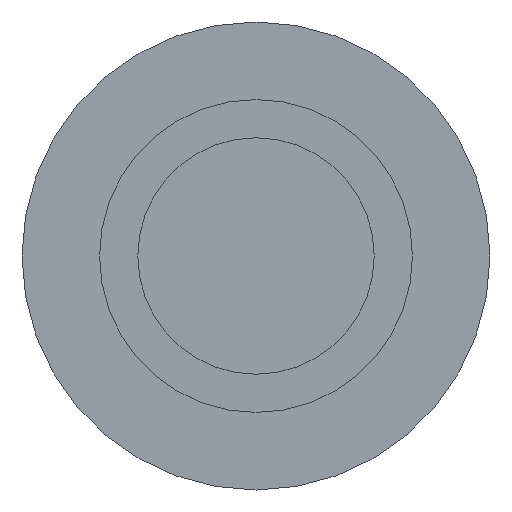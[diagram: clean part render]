
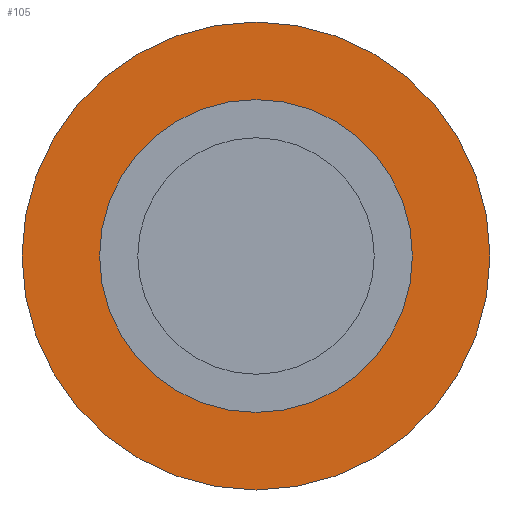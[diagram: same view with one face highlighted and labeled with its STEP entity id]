
A CAD part, front view. The second image highlights one B-rep face of the part: STEP entity #105.
In plain terms, the highlighted planar face has unit normal (0, -1, 0).
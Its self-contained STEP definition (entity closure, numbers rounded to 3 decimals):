
#22 = VERTEX_POINT('',#23);
#23 = CARTESIAN_POINT('',(65.35,107.9,-170.));
#32 = CYLINDRICAL_SURFACE('',#33,4.75);
#33 = AXIS2_PLACEMENT_3D('',#34,#35,#36);
#34 = CARTESIAN_POINT('',(60.6,107.9,-170.));
#35 = DIRECTION('',(0.,-1.,-0.));
#36 = DIRECTION('',(1.,0.,0.));
#79 = EDGE_CURVE('',#22,#22,#80,.T.);
#80 = SURFACE_CURVE('',#81,(#86,#93),.PCURVE_S1.);
#81 = CIRCLE('',#82,4.75);
#82 = AXIS2_PLACEMENT_3D('',#83,#84,#85);
#83 = CARTESIAN_POINT('',(60.6,107.9,-170.));
#84 = DIRECTION('',(-0.,1.,0.));
#85 = DIRECTION('',(1.,0.,0.));
#86 = PCURVE('',#32,#87);
#87 = DEFINITIONAL_REPRESENTATION('',(#88),#92);
#88 = LINE('',#89,#90);
#89 = CARTESIAN_POINT('',(-0.,0.));
#90 = VECTOR('',#91,1.);
#91 = DIRECTION('',(-1.,0.));
#92 = ( GEOMETRIC_REPRESENTATION_CONTEXT(2) 
PARAMETRIC_REPRESENTATION_CONTEXT() REPRESENTATION_CONTEXT('2D SPACE',''
  ) );
#93 = PCURVE('',#94,#99);
#94 = PLANE('',#95);
#95 = AXIS2_PLACEMENT_3D('',#96,#97,#98);
#96 = CARTESIAN_POINT('',(60.6,107.9,-170.));
#97 = DIRECTION('',(0.,1.,0.));
#98 = DIRECTION('',(0.,-0.,1.));
#99 = DEFINITIONAL_REPRESENTATION('',(#100),#104);
#100 = CIRCLE('',#101,4.75);
#101 = AXIS2_PLACEMENT_2D('',#102,#103);
#102 = CARTESIAN_POINT('',(0.,0.));
#103 = DIRECTION('',(0.,1.));
#104 = ( GEOMETRIC_REPRESENTATION_CONTEXT(2) 
PARAMETRIC_REPRESENTATION_CONTEXT() REPRESENTATION_CONTEXT('2D SPACE',''
  ) );
#105 = ADVANCED_FACE('',(#106,#109),#94,.F.);
#106 = FACE_BOUND('',#107,.F.);
#107 = EDGE_LOOP('',(#108));
#108 = ORIENTED_EDGE('',*,*,#79,.T.);
#109 = FACE_BOUND('',#110,.F.);
#110 = EDGE_LOOP('',(#111));
#111 = ORIENTED_EDGE('',*,*,#112,.F.);
#112 = EDGE_CURVE('',#113,#113,#115,.T.);
#113 = VERTEX_POINT('',#114);
#114 = CARTESIAN_POINT('',(63.775,107.9,-170.));
#115 = SURFACE_CURVE('',#116,(#121,#128),.PCURVE_S1.);
#116 = CIRCLE('',#117,3.175);
#117 = AXIS2_PLACEMENT_3D('',#118,#119,#120);
#118 = CARTESIAN_POINT('',(60.6,107.9,-170.));
#119 = DIRECTION('',(-0.,1.,0.));
#120 = DIRECTION('',(1.,0.,0.));
#121 = PCURVE('',#94,#122);
#122 = DEFINITIONAL_REPRESENTATION('',(#123),#127);
#123 = CIRCLE('',#124,3.175);
#124 = AXIS2_PLACEMENT_2D('',#125,#126);
#125 = CARTESIAN_POINT('',(0.,0.));
#126 = DIRECTION('',(0.,1.));
#127 = ( GEOMETRIC_REPRESENTATION_CONTEXT(2) 
PARAMETRIC_REPRESENTATION_CONTEXT() REPRESENTATION_CONTEXT('2D SPACE',''
  ) );
#128 = PCURVE('',#129,#134);
#129 = CYLINDRICAL_SURFACE('',#130,3.175);
#130 = AXIS2_PLACEMENT_3D('',#131,#132,#133);
#131 = CARTESIAN_POINT('',(60.6,68.7,-170.));
#132 = DIRECTION('',(0.,-1.,-0.));
#133 = DIRECTION('',(1.,0.,0.));
#134 = DEFINITIONAL_REPRESENTATION('',(#135),#139);
#135 = LINE('',#136,#137);
#136 = CARTESIAN_POINT('',(-0.,-39.2));
#137 = VECTOR('',#138,1.);
#138 = DIRECTION('',(-1.,0.));
#139 = ( GEOMETRIC_REPRESENTATION_CONTEXT(2) 
PARAMETRIC_REPRESENTATION_CONTEXT() REPRESENTATION_CONTEXT('2D SPACE',''
  ) );
